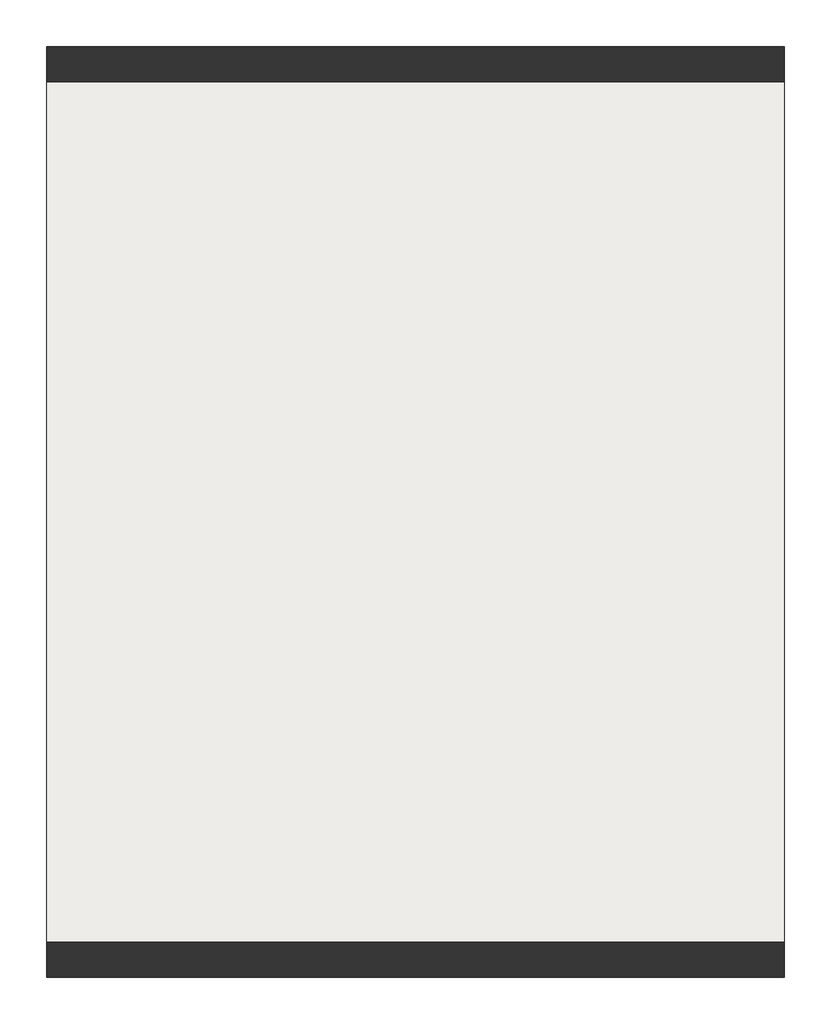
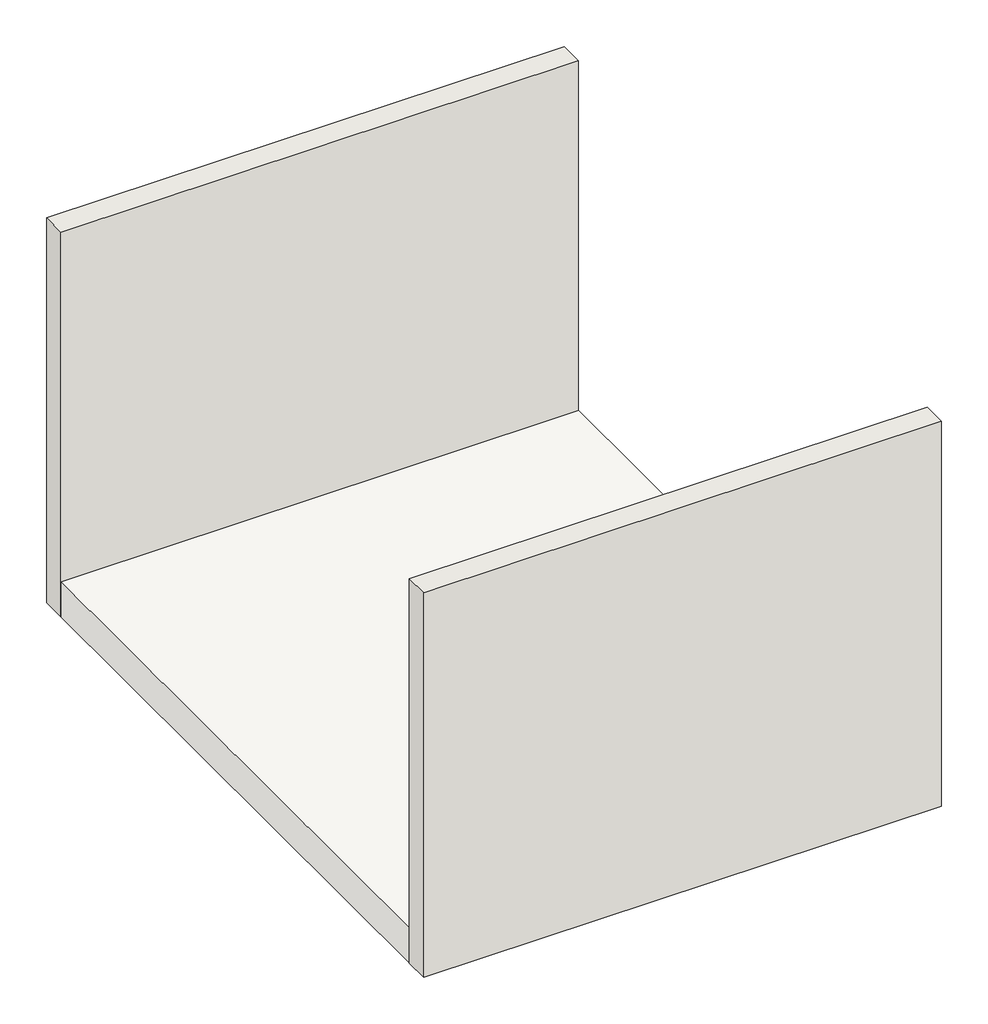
# One storey: 2 walls, 1 slab.
"""IFC4 building model written with IfcOpenShell, lengths in millimetres."""

from ifc_helpers import new_model, si_unit, frame, origin, place, context, project, spatial, polyline, outline, extrude, element, save

model = new_model("IFC4")

# Units and contexts
model_context = context("Model", 3, world=origin())
ifc_project = project(units=[si_unit("LENGTHUNIT", "METRE", prefix="MILLI")], contexts=[model_context])

# Site, building, storey
site = spatial("IfcSite", under=ifc_project)
building = spatial("IfcBuilding", under=site)
storey = spatial("IfcBuildingStorey", under=building, Name="01_eerste verdieping_(AVL-BK)", Elevation=3300.0)

# Slab
placement = place(None, origin())
element("IfcSlab", 1, ObjectType="RBS_23_FL_vloer_binnen_d=300", at=placement, inside=storey, context=model_context, shape_type="SweptSolid", body=[
    extrude(outline(polyline([(7100.0, 2400.0), (2900.0, 2400.0), (2900.0, 7500.0), (7100.0, 7500.0), (7100.0, 2400.0)])), frame((0.0, 0.0, 3000.0), z_axis=(0.0, 0.0, 1.0), x_axis=(1.0, 0.0, 0.0)), (0.0, 0.0, 1.0), 300.0),
])

# Walls
element("IfcWall", 2, ObjectType="RBS_21_WA_wand_buiten_d=200", at=placement, inside=storey, context=model_context, shape_type="SweptSolid", body=[
    extrude(outline(polyline([(7100.0, 7400.0), (2900.0, 7400.0), (2900.0, 7600.0), (7100.0, 7600.0), (7100.0, 7400.0)])), frame((0.0, 0.0, 3000.0), z_axis=(0.0, 0.0, 1.0), x_axis=(1.0, 0.0, 0.0)), (0.0, 0.0, 1.0), 3300.0),
])
element("IfcWall", 3, ObjectType="RBS_21_WA_wand_buiten_d=200", at=placement, inside=storey, context=model_context, shape_type="SweptSolid", body=[
    extrude(outline(polyline([(2900.0, 2500.0), (7100.0, 2500.0), (7100.0, 2300.0), (2900.0, 2300.0), (2900.0, 2500.0)])), frame((0.0, 0.0, 3000.0), z_axis=(0.0, 0.0, 1.0), x_axis=(1.0, 0.0, 0.0)), (0.0, 0.0, 1.0), 3300.0),
])

save(model, "model.ifc")
